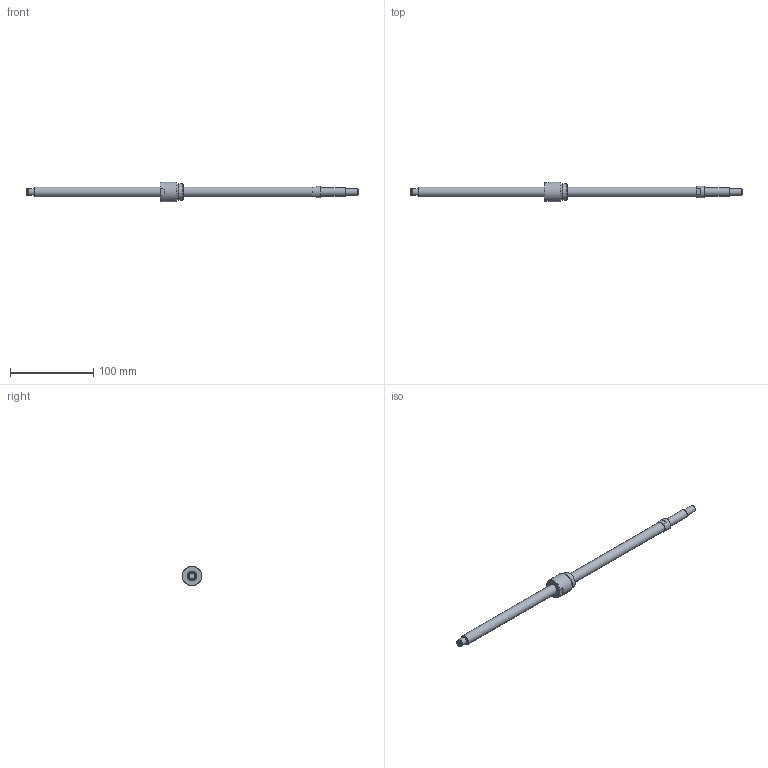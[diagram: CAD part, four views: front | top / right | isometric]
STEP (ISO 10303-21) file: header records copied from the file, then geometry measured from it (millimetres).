
FILE_DESCRIPTION(/* description */ ('STEP AP214'),/* implementation_level */ '2;1');
FILE_NAME(/* name */ 'NSG1202-331R400C5B0X(151.5)',/* time_stamp */ '2026-08-20T15:50:14+02:00',/* author */ ('License CC BY-ND 4.0'),/* organization */ ('CADENAS'),/* preprocessor_version */ 'ST-DEVELOPER v20',/* originating_system */ 'PARTsolutions',/* authorisation */ ' ');
FILE_SCHEMA (('AUTOMOTIVE_DESIGN {1 0 10303 214 3 1 1}'));
Length unit declared in the file: millimetre
Products named in the file (3): NSG1202-331R400C5B0X(151.5); NSG1202-331R400C3B_shaft; NSG1202_nut
Assembly tree (2 placements, depth 2):
  NSG1202-331R400C5B0X(151.5)
    NSG1202-331R400C3B_shaft
    NSG1202_nut
Bounding box: 400 x 24 x 24 mm (x, y, z)
Volume: 51153.2 mm3; surface area: 18639 mm2
Topology: 2 solids, 2 shells, 42 faces, 83 edges, 51 vertices
Faces by surface type: plane 20, cylinder 11, cone 10, torus 1
Full cylindrical faces by diameter (mm): 7.6 x1, 8 x3, 10 x1, 12 x2, 14 x1, 18.4 x1, 20 x1, 24 x1
Entity records: 1047 total; most frequent: DIRECTION 186, CARTESIAN_POINT 167, ORIENTED_EDGE 122, AXIS2_PLACEMENT_3D 84, EDGE_LOOP 70, FACE_BOUND 70, EDGE_CURVE 61, VERTEX_POINT 49
